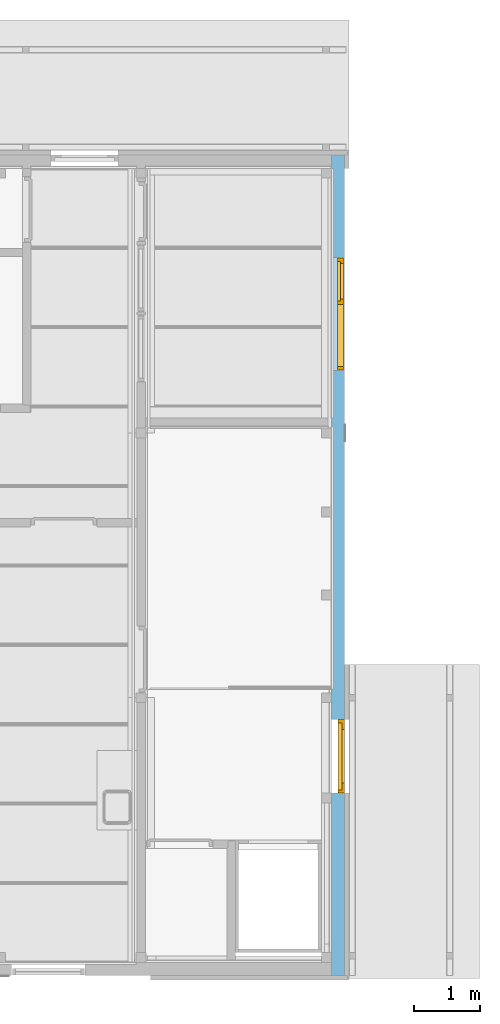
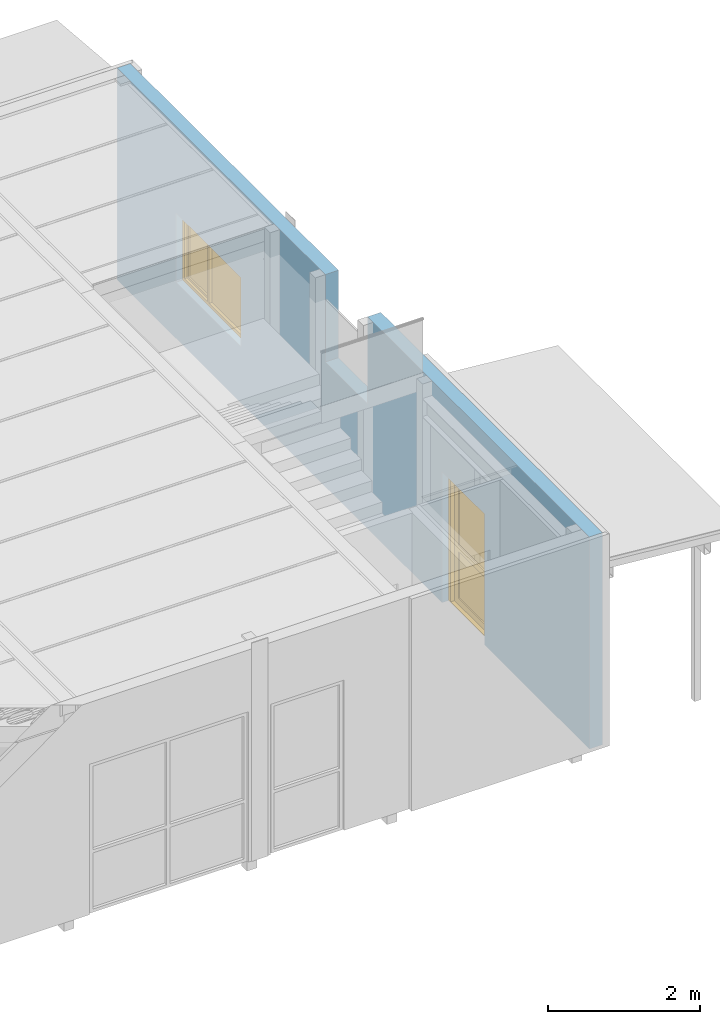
# One storey, part 30 of 45: 1 door, 1 window, 3 openings, plus 1 element that does not belong to this part.
"""IFC2X3 building model written with IfcOpenShell, lengths in millimetres."""

import ifcopenshell
import ifcopenshell.guid

model = None  # the IFC model being written
_history = None  # IfcOwnerHistory: only IFC2X3 demands one
_inside = {}  # id of a spatial element -> (the spatial element, [elements in it])
_under = {}  # id of a project, library or spatial element -> (it, [spatial elements below it])
_declared = {}  # id of a project -> (the project, [libraries it declares])
_typed = {}  # id of a type object -> (the type object, [elements of that type])
_made_of = {}  # id of a material, layer set ... -> (it, [elements and type objects made of it])


def new_model(schema):
    """Start an empty IFC model of exactly this schema.

    Asked for "IFC4X3", IfcOpenShell would pick the latest addendum, in which some entities
    have other attributes; the version numbers below select the first issue.
    IFC2X3 requires an IfcOwnerHistory on every rooted entity: one is made here for all.
    """
    global model, _history
    if schema == "IFC4X3":
        model = ifcopenshell.file(schema_version=(4, 3, 0, 0))
    else:
        model = ifcopenshell.file(schema=schema)
    _inside.clear()
    _under.clear()
    _declared.clear()
    _typed.clear()
    _made_of.clear()
    _history = None
    if model.schema == "IFC2X3":
        org = make("IfcOrganization", Name="unknown")
        user = make(
            "IfcPersonAndOrganization",
            ThePerson=make("IfcPerson", FamilyName="unknown"),
            TheOrganization=org,
        )
        app = make(
            "IfcApplication",
            ApplicationDeveloper=org,
            Version="unknown",
            ApplicationFullName="unknown",
            ApplicationIdentifier="unknown",
        )
        _history = make(
            "IfcOwnerHistory",
            OwningUser=user,
            OwningApplication=app,
            ChangeAction="ADDED",
            CreationDate=0,
        )
    return model


def make(cls, **values):
    """One entity of the class cls with the attributes given. An attribute that is None is left unset."""
    return model.create_entity(
        cls, **{name: value for name, value in values.items() if value is not None}
    )


def entity(cls, *values):
    """Any entity or typed value of the class cls, its attributes in the order of the schema. None: left unset."""
    e = model.create_entity(cls)
    for i, value in enumerate(values):
        if value is not None:
            e[i] = value
    return e


def rooted(cls, **values):
    """An entity with a GlobalId (a new one), such as an element, a storey or a relation."""
    return make(cls, GlobalId=ifcopenshell.guid.new(), OwnerHistory=_history, **values)


def si_unit(unit_type, name, prefix=None):
    """IfcSIUnit, for example si_unit("LENGTHUNIT", "METRE", prefix="MILLI")."""
    return make("IfcSIUnit", UnitType=unit_type, Prefix=prefix, Name=name)


def converted_unit(unit_type, name, factor, base, dimensions=None, offset=None):
    """IfcConversionBasedUnit, such as the inch: factor (a typed value) times the base unit."""
    return make(
        "IfcConversionBasedUnit"
        if offset is None
        else "IfcConversionBasedUnitWithOffset",
        ConversionOffset=offset,
        Dimensions=None
        if dimensions is None
        else entity("IfcDimensionalExponents", *dimensions),
        UnitType=unit_type,
        Name=name,
        ConversionFactor=make(
            "IfcMeasureWithUnit", ValueComponent=factor, UnitComponent=base
        ),
    )


def assignment(units):
    """IfcUnitAssignment: the units of a project."""
    return None if units is None else make("IfcUnitAssignment", Units=units)


def point(xyz):
    """IfcCartesianPoint."""
    return None if xyz is None else make("IfcCartesianPoint", Coordinates=xyz)


def direction(xyz):
    """IfcDirection."""
    return None if xyz is None else make("IfcDirection", DirectionRatios=xyz)


def frame(location, z_axis=None, x_axis=None):
    """IfcAxis2Placement3D, a coordinate frame: its origin and axes. An axis left out is left unset."""
    return make(
        "IfcAxis2Placement3D",
        Location=point(location),
        Axis=direction(z_axis),
        RefDirection=direction(x_axis),
    )


def frame_2d(location, x_axis=None):
    """IfcAxis2Placement2D, a coordinate frame in the plane: its origin and x axis."""
    return make(
        "IfcAxis2Placement2D", Location=point(location), RefDirection=direction(x_axis)
    )


def origin():
    """The frame at (0, 0, 0) with its axes left unset."""
    return frame((0.0, 0.0, 0.0))


def origin_with_axes():
    """The frame at (0, 0, 0) with the z axis (0, 0, 1) and the x axis (1, 0, 0) written out."""
    return frame((0.0, 0.0, 0.0), z_axis=(0.0, 0.0, 1.0), x_axis=(1.0, 0.0, 0.0))


def place(relative_to, where):
    """IfcLocalPlacement: puts the frame where relative to a parent placement (None: the world)."""
    return make(
        "IfcLocalPlacement", PlacementRelTo=relative_to, RelativePlacement=where
    )


def context(
    kind, dimensions, precision=None, world=None, true_north=None, identifier=None
):
    """IfcGeometricRepresentationContext, for example the 3D "Model" context."""
    return make(
        "IfcGeometricRepresentationContext",
        ContextIdentifier=identifier,
        ContextType=kind,
        CoordinateSpaceDimension=dimensions,
        Precision=precision,
        WorldCoordinateSystem=world,
        TrueNorth=true_north,
    )


def subcontext(parent, identifier, kind, view, scale=None):
    """IfcGeometricRepresentationSubContext, for example "Body" below "Model"."""
    return make(
        "IfcGeometricRepresentationSubContext",
        ContextIdentifier=identifier,
        ContextType=kind,
        ParentContext=parent,
        TargetScale=scale,
        TargetView=view,
    )


def project(units=None, contexts=None):
    """IfcProject with its units and contexts."""
    return rooted(
        "IfcProject",
        Name="project",
        RepresentationContexts=contexts,
        UnitsInContext=assignment(units),
    )


def spatial(cls, under=None, at=None, **own):
    """A site, building, storey or space (cls), placed at a placement, below another one or the project."""
    s = rooted(cls, ObjectPlacement=at, **own)
    if under is not None:
        _under.setdefault(under.id(), (under, []))[1].append(s)
    return s


def profile(cls, at=None, kind="AREA", **sizes):
    """A parametric profile (cls). Its sizes go by their IFC names, for example OverallWidth=200.0."""
    return make(cls, ProfileType=kind, Position=at, **sizes)


def rectangle(**sizes):
    """IfcRectangleProfileDef."""
    return profile("IfcRectangleProfileDef", **sizes)


def extrude(swept, where, along, depth):
    """IfcExtrudedAreaSolid: the profile swept, set in the frame where, extruded along a direction by depth."""
    return make(
        "IfcExtrudedAreaSolid",
        SweptArea=swept,
        Position=where,
        ExtrudedDirection=direction(along),
        Depth=depth,
    )


def faces_of(points, faces, orient=None, outer=None):
    """IfcFace entities. A face is a list of loops; a loop is a list of indices into points, from 0.

    orient and outer hold one flag for each loop. By default every Orientation is true, the
    first loop of a face is its IfcFaceOuterBound and the others are IfcFaceBound.
    """
    made = []
    for i, loops in enumerate(faces):
        bounds = []
        for j, loop in enumerate(loops):
            is_outer = j == 0 if outer is None else outer[i][j]
            bounds.append(
                make(
                    "IfcFaceOuterBound" if is_outer else "IfcFaceBound",
                    Bound=make("IfcPolyLoop", Polygon=[points[k] for k in loop]),
                    Orientation=True if orient is None else orient[i][j],
                )
            )
        made.append(make("IfcFace", Bounds=bounds))
    return made


def faceted_brep(points, faces, orient=None, outer=None, voids=None):
    """IfcFacetedBrep: a solid bounded by flat faces; with voids (closed shells), ...WithVoids."""
    shared = [point(p) for p in points]
    hull = make("IfcClosedShell", CfsFaces=faces_of(shared, faces, orient, outer))
    if voids is None:
        return make("IfcFacetedBrep", Outer=hull)
    return make(
        "IfcFacetedBrepWithVoids",
        Outer=hull,
        Voids=[
            make(cls, CfsFaces=faces_of(shared, fs, o, b)) for cls, fs, o, b in voids
        ],
    )


def shape(context_of_items, identifier, shape_type, items):
    """IfcShapeRepresentation: the items that make up one representation, for example the "Body"."""
    return make(
        "IfcShapeRepresentation",
        ContextOfItems=context_of_items,
        RepresentationIdentifier=identifier,
        RepresentationType=shape_type,
        Items=items,
    )


def material(Name=None, Category=None):
    """IfcMaterial."""
    return make("IfcMaterial", Name=Name, Category=Category)


def layer(
    of_material, thickness, ventilated=None, Name=None, Category=None, Priority=None
):
    """IfcMaterialLayer: one layer of a wall or slab, of a material (None: an air gap)."""
    return make(
        "IfcMaterialLayer",
        Material=of_material,
        LayerThickness=thickness,
        IsVentilated=ventilated,
        Name=Name,
        Category=Category,
        Priority=Priority,
    )


def layer_set(layers, Name=None):
    """IfcMaterialLayerSet."""
    return make("IfcMaterialLayerSet", MaterialLayers=layers, LayerSetName=Name)


def layer_usage(for_layer_set, set_direction, sense, offset, extent=None):
    """IfcMaterialLayerSetUsage: how a layer set lies in its element."""
    return make(
        "IfcMaterialLayerSetUsage",
        ForLayerSet=for_layer_set,
        LayerSetDirection=set_direction,
        DirectionSense=sense,
        OffsetFromReferenceLine=offset,
        ReferenceExtent=extent,
    )


def made_of(thing, what):
    """Note that an element or type object is made of a material, layer set ...; save() writes the relation."""
    if what is not None:
        _made_of.setdefault(what.id(), (what, []))[1].append(thing)
    return thing


def type_object(cls, material=None, **own):
    """A type object (cls), such as IfcWallType, which elements share."""
    return made_of(rooted(cls, **own), material)


def element(
    cls,
    number,
    at=None,
    inside=None,
    cuts=None,
    type_object=None,
    material=None,
    context=None,
    identifier="Body",
    shape_type=None,
    held_by="IfcProductDefinitionShape",
    body=None,
    shapes=None,
    **own,
):
    """One element of the class cls, such as IfcWall. Its Tag is "e" and its number.

    at: its placement. inside: the storey or other place that contains it. cuts: it is an
    opening in that element (IfcRelVoidsElement). A single representation is given by context,
    identifier, shape_type and body (its items); several are given by shapes. held_by: the class
    of the entity that holds the representations. save() writes the other relations.
    """
    e = rooted(cls, Tag="e%d" % number, ObjectPlacement=at, **own)
    if body is not None:
        shapes = [shape(context, identifier, shape_type, body)]
    if shapes is not None:
        e.Representation = make(held_by, Representations=shapes)
    if inside is not None:
        _inside.setdefault(inside.id(), (inside, []))[1].append(e)
    if cuts is not None:
        rooted(
            "IfcRelVoidsElement", RelatingBuildingElement=cuts, RelatedOpeningElement=e
        )
    if type_object is not None:
        _typed.setdefault(type_object.id(), (type_object, []))[1].append(e)
    return made_of(e, material)


def fill(opening, filler):
    """IfcRelFillsElement: the door or window that sits in an opening."""
    return rooted(
        "IfcRelFillsElement",
        RelatingOpeningElement=opening,
        RelatedBuildingElement=filler,
    )


def aggregate(whole, parts):
    """IfcRelAggregates: a whole, such as a stair, and the parts it consists of."""
    return rooted("IfcRelAggregates", RelatingObject=whole, RelatedObjects=parts)


def save(model, path):
    """Write the relations noted so far, then the file.

    IfcRelAggregates (storeys below a building ...), IfcRelContainedInSpatialStructure (elements
    in a storey), IfcRelDefinesByType, IfcRelAssociatesMaterial and IfcRelDeclares: one each for
    every whole, place, type object, material and project.
    """
    for whole, parts in _under.values():
        aggregate(whole, parts)
    for where, things in _inside.values():
        rooted(
            "IfcRelContainedInSpatialStructure",
            RelatedElements=things,
            RelatingStructure=where,
        )
    for kind, things in _typed.values():
        rooted("IfcRelDefinesByType", RelatedObjects=things, RelatingType=kind)
    for what, things in _made_of.values():
        rooted("IfcRelAssociatesMaterial", RelatedObjects=things, RelatingMaterial=what)
    for by, libraries in _declared.values():
        rooted("IfcRelDeclares", RelatingContext=by, RelatedDefinitions=libraries)
    model.write(path)


model = new_model("IFC2X3")

# Units and contexts
model_context = context("Model", 3, precision=1e-05, world=origin())
plan_context = context("Plan", 3, precision=1e-05, world=origin())
body_context = subcontext(model_context, "Body", "Model", "MODEL_VIEW")
ifc_project = project(units=[si_unit("LENGTHUNIT", "METRE", prefix="MILLI"), converted_unit("PLANEANGLEUNIT", "DEGREE", entity("IfcPlaneAngleMeasure", 0.0174532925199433), si_unit("PLANEANGLEUNIT", "RADIAN"), dimensions=[0, 0, 0, 0, 0, 0, 0]), si_unit("AREAUNIT", "SQUARE_METRE"), si_unit("VOLUMEUNIT", "CUBIC_METRE")], contexts=[model_context, plan_context])

# Building, storey
building_placement = place(None, origin())
building = spatial("IfcBuilding", under=ifc_project, at=building_placement, Name="HEKF Administrasjonbygg", CompositionType="ELEMENT")
storey_placement = place(building_placement, frame((0.0, 0.0, 6500.0), z_axis=(0.0, 0.0, 1.0), x_axis=(1.0, 0.0, 0.0)))
storey = spatial("IfcBuildingStorey", under=building, at=storey_placement, Name="Plan 1", CompositionType="ELEMENT", Elevation=6500.0)

# Wall, openings, door, window
ifc_material_1 = material(Name="Paroc 200")
ifc_layer = layer(ifc_material_1, 200.0)
ifc_layer_set = layer_set([ifc_layer])
ifc_layer_usage = layer_usage(ifc_layer_set, "AXIS2", "POSITIVE", 0.0)
wall_placement = place(storey_placement, frame((30000.0, 200.0, 0.0), z_axis=(0.0, 0.0, 1.0), x_axis=(0.0, -1.0, 0.0)))
wall = element("IfcWallStandardCase", 1, at=wall_placement, inside=storey, material=ifc_layer_usage, context=body_context, shape_type="SweptSolid", body=[
    extrude(rectangle(XDim=12400.0, YDim=200.0, at=frame_2d((6200.000000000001, 100.0), x_axis=(1.0, 0.0))), origin_with_axes(), (0.0, 0.0, 1.0), 3400.0),
])
opening_1_placement = place(wall_placement, frame((5466.053432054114, 0.0, 2000.0), z_axis=(0.0, 1.0, 0.0), x_axis=(0.0, 0.0, 1.0)))
element("IfcOpeningElement", 2, at=opening_1_placement, cuts=wall, Name="V013", ObjectType="Opening", context=body_context, shape_type="SweptSolid", body=[
    extrude(rectangle(XDim=2410.0, YDim=1110.0, at=frame_2d((1205.0, 555.0), x_axis=(1.0, 0.0))), origin_with_axes(), (0.0, 0.0, 1.0), 200.0),
])
opening_2_placement = place(wall_placement, frame((8531.624074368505, 0.0, 0.0), z_axis=(0.0, 1.0, 0.0), x_axis=(0.0, 0.0, 1.0)))
opening_2 = element("IfcOpeningElement", 3, at=opening_2_placement, cuts=wall, Name="D003", ObjectType="Opening", context=body_context, shape_type="SweptSolid", body=[
    extrude(rectangle(XDim=2100.0, YDim=1110.0, at=frame_2d((1050.0, 555.0), x_axis=(1.0, 0.0))), origin_with_axes(), (0.0, 0.0, 1.0), 200.0),
])
opening_3_placement = place(wall_placement, frame((1545.561780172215, 0.0, 900.0), z_axis=(0.0, 1.0, 0.0), x_axis=(0.0, 0.0, 1.0)))
opening_3 = element("IfcOpeningElement", 4, at=opening_3_placement, cuts=wall, Name="V005", ObjectType="Opening", context=body_context, shape_type="SweptSolid", body=[
    extrude(rectangle(XDim=1110.0, YDim=1710.0, at=frame_2d((555.0, 855.0), x_axis=(1.0, 0.0))), origin_with_axes(), (0.0, 0.0, 1.0), 200.0),
])
ifc_material_2 = material()
door_style = type_object("IfcDoorStyle", Name="D003", ConstructionType="NOTDEFINED", OperationType="USERDEFINED", ParameterTakesPrecedence=False, Sizeable=False)
door_placement = place(opening_2_placement, frame((0.0, 0.0, 0.0), z_axis=(1.0, 0.0, 0.0), x_axis=(0.0, 1.0, 0.0)))
door = element("IfcDoor", 5, at=door_placement, inside=storey, type_object=door_style, material=ifc_material_2, Name="D003", OverallHeight=2100.0, OverallWidth=1110.0, context=body_context, shape_type="Brep", body=[
    faceted_brep([(1110.0, 200.0000000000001, 2100.0), (1060.0, 200.0000000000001, 2100.0), (1060.0, 200.0, -3.061616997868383e-15), (1110.0, 200.0, -3.061616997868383e-15), (1110.0, 100.0, 3.061616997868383e-15), (1060.0, 100.0, 3.061616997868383e-15), (1060.0, 100.0000000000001, 2100.0), (1110.0, 100.0000000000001, 2100.0), (1110.0, 200.0, -3.061616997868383e-15), (1110.0, 100.0, 3.061616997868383e-15), (1110.0, 100.0000000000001, 2100.0), (1110.0, 200.0000000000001, 2100.0), (1060.0, 200.0, -3.061616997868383e-15), (1060.0, 100.0, 3.061616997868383e-15), (1110.0, 100.0, 3.061616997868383e-15), (1110.0, 200.0, -3.061616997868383e-15), (1060.0, 200.0000000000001, 2100.0), (1060.0, 100.0000000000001, 2100.0), (1060.0, 100.0, 3.061616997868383e-15), (1060.0, 200.0, -3.061616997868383e-15), (1110.0, 200.0000000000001, 2100.0), (1110.0, 100.0000000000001, 2100.0), (1060.0, 100.0000000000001, 2100.0), (1060.0, 200.0000000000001, 2100.0)], [[[0, 1, 2, 3]], [[4, 5, 6, 7]], [[8, 9, 10, 11]], [[12, 13, 14, 15]], [[16, 17, 18, 19]], [[20, 21, 22, 23]]], orient=[[False], [False], [False], [False], [False], [False]]),
    faceted_brep([(50.0, 200.0000000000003, 2100.0), (0.0, 200.0000000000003, 2100.0), (0.0, 200.0000000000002, -3.061616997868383e-15), (50.0, 200.0000000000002, -3.061616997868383e-15), (50.0, 100.0000000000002, 3.061616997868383e-15), (0.0, 100.0000000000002, 3.061616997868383e-15), (0.0, 100.0000000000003, 2100.0), (50.0, 100.0000000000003, 2100.0), (50.0, 200.0000000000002, -3.061616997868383e-15), (50.0, 100.0000000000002, 3.061616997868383e-15), (50.0, 100.0000000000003, 2100.0), (50.0, 200.0000000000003, 2100.0), (0.0, 200.0000000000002, -3.061616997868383e-15), (0.0, 100.0000000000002, 3.061616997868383e-15), (50.0, 100.0000000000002, 3.061616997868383e-15), (50.0, 200.0000000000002, -3.061616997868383e-15), (0.0, 200.0000000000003, 2100.0), (0.0, 100.0000000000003, 2100.0), (0.0, 100.0000000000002, 3.061616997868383e-15), (0.0, 200.0000000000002, -3.061616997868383e-15), (50.0, 200.0000000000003, 2100.0), (50.0, 100.0000000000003, 2100.0), (0.0, 100.0000000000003, 2100.0), (0.0, 200.0000000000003, 2100.0)], [[[0, 1, 2, 3]], [[4, 5, 6, 7]], [[8, 9, 10, 11]], [[12, 13, 14, 15]], [[16, 17, 18, 19]], [[20, 21, 22, 23]]], orient=[[False], [False], [False], [False], [False], [False]]),
    faceted_brep([(1060.0, 200.0, 9.999999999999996), (50.0, 200.0000000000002, 9.999999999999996), (50.0, 200.0000000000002, -3.061616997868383e-15), (1060.0, 200.0, -3.061616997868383e-15), (1060.0, 100.0, 3.061616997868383e-15), (50.0, 100.0000000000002, 3.061616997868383e-15), (50.0, 100.0000000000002, 10.0), (1060.0, 100.0, 10.0), (1060.0, 200.0, -3.061616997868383e-15), (1060.0, 100.0, 3.061616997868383e-15), (1060.0, 100.0, 10.0), (1060.0, 200.0, 9.999999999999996), (50.0, 200.0000000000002, -3.061616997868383e-15), (50.0, 100.0000000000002, 3.061616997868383e-15), (1060.0, 100.0, 3.061616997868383e-15), (1060.0, 200.0, -3.061616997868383e-15), (50.0, 200.0000000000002, 9.999999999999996), (50.0, 100.0000000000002, 10.0), (50.0, 100.0000000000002, 3.061616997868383e-15), (50.0, 200.0000000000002, -3.061616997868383e-15), (1060.0, 200.0, 9.999999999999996), (1060.0, 100.0, 10.0), (50.0, 100.0000000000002, 10.0), (50.0, 200.0000000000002, 9.999999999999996)], [[[0, 1, 2, 3]], [[4, 5, 6, 7]], [[8, 9, 10, 11]], [[12, 13, 14, 15]], [[16, 17, 18, 19]], [[20, 21, 22, 23]]], orient=[[False], [False], [False], [False], [False], [False]]),
    faceted_brep([(1060.0, 200.0000000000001, 2100.000000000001), (50.0, 200.0000000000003, 2100.000000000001), (50.0, 200.0000000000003, 2050.000000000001), (1060.0, 200.0000000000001, 2050.000000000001), (1060.0, 100.0000000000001, 2050.000000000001), (50.0, 100.0000000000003, 2050.000000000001), (50.0, 100.0000000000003, 2100.000000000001), (1060.0, 100.0000000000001, 2100.000000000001), (1060.0, 200.0000000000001, 2050.000000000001), (1060.0, 100.0000000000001, 2050.000000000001), (1060.0, 100.0000000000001, 2100.000000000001), (1060.0, 200.0000000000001, 2100.000000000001), (50.0, 200.0000000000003, 2050.000000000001), (50.0, 100.0000000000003, 2050.000000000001), (1060.0, 100.0000000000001, 2050.000000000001), (1060.0, 200.0000000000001, 2050.000000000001), (50.0, 200.0000000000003, 2100.000000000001), (50.0, 100.0000000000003, 2100.000000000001), (50.0, 100.0000000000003, 2050.000000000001), (50.0, 200.0000000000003, 2050.000000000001), (1060.0, 200.0000000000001, 2100.000000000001), (1060.0, 100.0000000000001, 2100.000000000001), (50.0, 100.0000000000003, 2100.000000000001), (50.0, 200.0000000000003, 2100.000000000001)], [[[0, 1, 2, 3]], [[4, 5, 6, 7]], [[8, 9, 10, 11]], [[12, 13, 14, 15]], [[16, 17, 18, 19]], [[20, 21, 22, 23]]], orient=[[False], [False], [False], [False], [False], [False]]),
    faceted_brep([(1060.0, 200.0000000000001, 2050.000000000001), (960.0, 200.0000000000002, 2050.000000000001), (960.0, 200.0, 9.999999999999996), (1060.0, 200.0, 9.999999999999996), (1060.0, 160.0, 9.999999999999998), (960.0, 160.0, 9.999999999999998), (960.0, 160.0000000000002, 2050.000000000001), (1060.0, 160.0000000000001, 2050.000000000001), (1060.0, 200.0, 9.999999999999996), (1060.0, 160.0, 9.999999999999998), (1060.0, 160.0000000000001, 2050.000000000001), (1060.0, 200.0000000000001, 2050.000000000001), (960.0, 200.0, 9.999999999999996), (960.0, 160.0, 9.999999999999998), (1060.0, 160.0, 9.999999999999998), (1060.0, 200.0, 9.999999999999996), (960.0, 200.0000000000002, 2050.000000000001), (960.0, 160.0000000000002, 2050.000000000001), (960.0, 160.0, 9.999999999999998), (960.0, 200.0, 9.999999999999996), (1060.0, 200.0000000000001, 2050.000000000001), (1060.0, 160.0000000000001, 2050.000000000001), (960.0, 160.0000000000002, 2050.000000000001), (960.0, 200.0000000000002, 2050.000000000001)], [[[0, 1, 2, 3]], [[4, 5, 6, 7]], [[8, 9, 10, 11]], [[12, 13, 14, 15]], [[16, 17, 18, 19]], [[20, 21, 22, 23]]], orient=[[False], [False], [False], [False], [False], [False]]),
    faceted_brep([(150.0, 200.0000000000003, 2050.000000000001), (50.0, 200.0000000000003, 2050.000000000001), (50.0, 200.0000000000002, 9.999999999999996), (150.0, 200.0000000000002, 9.999999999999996), (150.0, 160.0000000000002, 9.999999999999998), (50.0, 160.0000000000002, 9.999999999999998), (50.0, 160.0000000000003, 2050.000000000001), (150.0, 160.0000000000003, 2050.000000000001), (150.0, 200.0000000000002, 9.999999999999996), (150.0, 160.0000000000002, 9.999999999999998), (150.0, 160.0000000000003, 2050.000000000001), (150.0, 200.0000000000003, 2050.000000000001), (50.0, 200.0000000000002, 9.999999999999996), (50.0, 160.0000000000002, 9.999999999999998), (150.0, 160.0000000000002, 9.999999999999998), (150.0, 200.0000000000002, 9.999999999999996), (50.0, 200.0000000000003, 2050.000000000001), (50.0, 160.0000000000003, 2050.000000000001), (50.0, 160.0000000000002, 9.999999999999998), (50.0, 200.0000000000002, 9.999999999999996), (150.0, 200.0000000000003, 2050.000000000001), (150.0, 160.0000000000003, 2050.000000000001), (50.0, 160.0000000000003, 2050.000000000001), (50.0, 200.0000000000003, 2050.000000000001)], [[[0, 1, 2, 3]], [[4, 5, 6, 7]], [[8, 9, 10, 11]], [[12, 13, 14, 15]], [[16, 17, 18, 19]], [[20, 21, 22, 23]]], orient=[[False], [False], [False], [False], [False], [False]]),
    faceted_brep([(960.0, 200.0, 110.0), (150.0, 200.0000000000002, 110.0), (150.0, 200.0000000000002, 9.999999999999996), (960.0, 200.0, 9.999999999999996), (960.0, 160.0, 9.999999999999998), (150.0, 160.0000000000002, 9.999999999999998), (150.0, 160.0000000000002, 110.0), (960.0, 160.0, 110.0), (960.0, 200.0, 9.999999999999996), (960.0, 160.0, 9.999999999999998), (960.0, 160.0, 110.0), (960.0, 200.0, 110.0), (150.0, 200.0000000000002, 9.999999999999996), (150.0, 160.0000000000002, 9.999999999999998), (960.0, 160.0, 9.999999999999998), (960.0, 200.0, 9.999999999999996), (150.0, 200.0000000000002, 110.0), (150.0, 160.0000000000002, 110.0), (150.0, 160.0000000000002, 9.999999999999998), (150.0, 200.0000000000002, 9.999999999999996), (960.0, 200.0, 110.0), (960.0, 160.0, 110.0), (150.0, 160.0000000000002, 110.0), (150.0, 200.0000000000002, 110.0)], [[[0, 1, 2, 3]], [[4, 5, 6, 7]], [[8, 9, 10, 11]], [[12, 13, 14, 15]], [[16, 17, 18, 19]], [[20, 21, 22, 23]]], orient=[[False], [False], [False], [False], [False], [False]]),
    faceted_brep([(960.0, 200.0000000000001, 2050.000000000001), (150.0, 200.0000000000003, 2050.000000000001), (150.0, 200.0000000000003, 1950.000000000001), (960.0, 200.0000000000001, 1950.000000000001), (960.0, 160.0000000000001, 1950.000000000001), (150.0, 160.0000000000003, 1950.000000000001), (150.0, 160.0000000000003, 2050.000000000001), (960.0, 160.0000000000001, 2050.000000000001), (960.0, 200.0000000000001, 1950.000000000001), (960.0, 160.0000000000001, 1950.000000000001), (960.0, 160.0000000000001, 2050.000000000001), (960.0, 200.0000000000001, 2050.000000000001), (150.0, 200.0000000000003, 1950.000000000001), (150.0, 160.0000000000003, 1950.000000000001), (960.0, 160.0000000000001, 1950.000000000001), (960.0, 200.0000000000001, 1950.000000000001), (150.0, 200.0000000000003, 2050.000000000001), (150.0, 160.0000000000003, 2050.000000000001), (150.0, 160.0000000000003, 1950.000000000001), (150.0, 200.0000000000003, 1950.000000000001), (960.0, 200.0000000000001, 2050.000000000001), (960.0, 160.0000000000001, 2050.000000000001), (150.0, 160.0000000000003, 2050.000000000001), (150.0, 200.0000000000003, 2050.000000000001)], [[[0, 1, 2, 3]], [[4, 5, 6, 7]], [[8, 9, 10, 11]], [[12, 13, 14, 15]], [[16, 17, 18, 19]], [[20, 21, 22, 23]]], orient=[[False], [False], [False], [False], [False], [False]]),
    faceted_brep([(960.0, 200.0000000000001, 960.0), (150.0, 200.0000000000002, 960.0), (150.0, 200.0000000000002, 860.0), (960.0, 200.0000000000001, 860.0), (960.0, 160.0000000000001, 860.0), (150.0, 160.0000000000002, 860.0), (150.0, 160.0000000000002, 960.0), (960.0, 160.0000000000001, 960.0), (960.0, 200.0000000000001, 860.0), (960.0, 160.0000000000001, 860.0), (960.0, 160.0000000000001, 960.0), (960.0, 200.0000000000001, 960.0), (150.0, 200.0000000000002, 860.0), (150.0, 160.0000000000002, 860.0), (960.0, 160.0000000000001, 860.0), (960.0, 200.0000000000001, 860.0), (150.0, 200.0000000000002, 960.0), (150.0, 160.0000000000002, 960.0), (150.0, 160.0000000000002, 860.0), (150.0, 200.0000000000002, 860.0), (960.0, 200.0000000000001, 960.0), (960.0, 160.0000000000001, 960.0), (150.0, 160.0000000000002, 960.0), (150.0, 200.0000000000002, 960.0)], [[[0, 1, 2, 3]], [[4, 5, 6, 7]], [[8, 9, 10, 11]], [[12, 13, 14, 15]], [[16, 17, 18, 19]], [[20, 21, 22, 23]]], orient=[[False], [False], [False], [False], [False], [False]]),
    faceted_brep([(960.0, 180.0000000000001, 110.0), (960.0, 180.0000000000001, 860.0), (150.0, 180.0000000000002, 860.0), (150.0, 180.0000000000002, 110.0), (960.0, 179.0000000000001, 110.0), (150.0, 179.0000000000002, 110.0), (150.0, 179.0000000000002, 860.0), (960.0, 179.0000000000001, 860.0), (960.0, 180.0000000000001, 110.0), (960.0, 179.0000000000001, 110.0), (960.0, 179.0000000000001, 860.0), (960.0, 180.0000000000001, 860.0), (960.0, 180.0000000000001, 860.0), (960.0, 179.0000000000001, 860.0), (150.0, 179.0000000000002, 860.0), (150.0, 180.0000000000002, 860.0), (150.0, 180.0000000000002, 860.0), (150.0, 179.0000000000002, 860.0), (150.0, 179.0000000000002, 110.0), (150.0, 180.0000000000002, 110.0), (150.0, 180.0000000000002, 110.0), (150.0, 179.0000000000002, 110.0), (960.0, 179.0000000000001, 110.0), (960.0, 180.0000000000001, 110.0)], [[[0, 1, 2, 3]], [[4, 5, 6, 7]], [[8, 9, 10, 11]], [[12, 13, 14, 15]], [[16, 17, 18, 19]], [[20, 21, 22, 23]]], orient=[[False], [False], [False], [False], [False], [False]]),
    faceted_brep([(960.0, 180.0000000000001, 960.0), (960.0, 180.0000000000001, 1950.000000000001), (150.0, 180.0000000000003, 1950.000000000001), (150.0, 180.0000000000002, 960.0), (960.0, 179.0000000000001, 960.0), (150.0, 179.0000000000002, 960.0), (150.0, 179.0000000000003, 1950.000000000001), (960.0, 179.0000000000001, 1950.000000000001), (960.0, 180.0000000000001, 960.0), (960.0, 179.0000000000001, 960.0), (960.0, 179.0000000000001, 1950.000000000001), (960.0, 180.0000000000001, 1950.000000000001), (960.0, 180.0000000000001, 1950.000000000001), (960.0, 179.0000000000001, 1950.000000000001), (150.0, 179.0000000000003, 1950.000000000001), (150.0, 180.0000000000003, 1950.000000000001), (150.0, 180.0000000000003, 1950.000000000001), (150.0, 179.0000000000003, 1950.000000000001), (150.0, 179.0000000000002, 960.0), (150.0, 180.0000000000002, 960.0), (150.0, 180.0000000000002, 960.0), (150.0, 179.0000000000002, 960.0), (960.0, 179.0000000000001, 960.0), (960.0, 180.0000000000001, 960.0)], [[[0, 1, 2, 3]], [[4, 5, 6, 7]], [[8, 9, 10, 11]], [[12, 13, 14, 15]], [[16, 17, 18, 19]], [[20, 21, 22, 23]]], orient=[[False], [False], [False], [False], [False], [False]]),
])
fill(opening_2, door)
ifc_material_3 = material()
window_style = type_object("IfcWindowStyle", Name="V104", ConstructionType="NOTDEFINED", OperationType="USERDEFINED", ParameterTakesPrecedence=False, Sizeable=False)
window_placement = place(opening_3_placement, frame((0.0, 0.0, 0.0), z_axis=(1.0, 0.0, 0.0), x_axis=(0.0, 1.0, 0.0)))
window = element("IfcWindow", 6, at=window_placement, inside=storey, type_object=window_style, material=ifc_material_3, Name="V104", OverallHeight=1110.0, OverallWidth=1710.0, context=body_context, shape_type="Brep", body=[
    faceted_brep([(1700.0, 93.99999999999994, 1100.0), (1700.0, 94.00000000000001, 9.999999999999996), (1650.0, 94.00000000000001, 9.999999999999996), (1650.0, 93.99999999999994, 1100.0), (1700.0, 186.0, 10.0), (1700.0, 185.9999999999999, 1100.0), (1650.0, 185.9999999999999, 1100.0), (1650.0, 186.0, 10.0), (1700.0, 94.00000000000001, 9.999999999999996), (1700.0, 93.99999999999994, 1100.0), (1700.0, 185.9999999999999, 1100.0), (1700.0, 186.0, 10.0), (1650.0, 94.00000000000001, 9.999999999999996), (1700.0, 94.00000000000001, 9.999999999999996), (1700.0, 186.0, 10.0), (1650.0, 186.0, 10.0), (1650.0, 93.99999999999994, 1100.0), (1650.0, 94.00000000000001, 9.999999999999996), (1650.0, 186.0, 10.0), (1650.0, 185.9999999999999, 1100.0), (1700.0, 93.99999999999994, 1100.0), (1650.0, 93.99999999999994, 1100.0), (1650.0, 185.9999999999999, 1100.0), (1700.0, 185.9999999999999, 1100.0)], [[[0, 1, 2, 3]], [[4, 5, 6, 7]], [[8, 9, 10, 11]], [[12, 13, 14, 15]], [[16, 17, 18, 19]], [[20, 21, 22, 23]]], orient=[[False], [False], [False], [False], [False], [False]]),
    faceted_brep([(60.0, 94.00000000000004, 1100.0), (60.0, 94.00000000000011, 9.999999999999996), (10.0, 94.00000000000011, 9.999999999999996), (10.0, 94.00000000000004, 1100.0), (60.0, 186.0000000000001, 10.0), (60.0, 186.0, 1100.0), (10.0, 186.0, 1100.0), (10.0, 186.0000000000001, 10.0), (60.0, 94.00000000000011, 9.999999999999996), (60.0, 94.00000000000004, 1100.0), (60.0, 186.0, 1100.0), (60.0, 186.0000000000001, 10.0), (10.0, 94.00000000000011, 9.999999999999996), (60.0, 94.00000000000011, 9.999999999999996), (60.0, 186.0000000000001, 10.0), (10.0, 186.0000000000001, 10.0), (10.0, 94.00000000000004, 1100.0), (10.0, 94.00000000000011, 9.999999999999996), (10.0, 186.0000000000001, 10.0), (10.0, 186.0, 1100.0), (60.0, 94.00000000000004, 1100.0), (10.0, 94.00000000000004, 1100.0), (10.0, 186.0, 1100.0), (60.0, 186.0, 1100.0)], [[[0, 1, 2, 3]], [[4, 5, 6, 7]], [[8, 9, 10, 11]], [[12, 13, 14, 15]], [[16, 17, 18, 19]], [[20, 21, 22, 23]]], orient=[[False], [False], [False], [False], [False], [False]]),
    faceted_brep([(1650.0, 94.00000000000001, 60.0), (1650.0, 94.00000000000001, 9.999999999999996), (60.00000000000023, 94.00000000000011, 9.999999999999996), (60.00000000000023, 94.00000000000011, 60.0), (1650.0, 186.0, 10.0), (1650.0, 186.0, 60.0), (60.00000000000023, 186.0000000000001, 60.0), (60.00000000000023, 186.0000000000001, 10.0), (1650.0, 94.00000000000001, 9.999999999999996), (1650.0, 94.00000000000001, 60.0), (1650.0, 186.0, 60.0), (1650.0, 186.0, 10.0), (60.00000000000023, 94.00000000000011, 9.999999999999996), (1650.0, 94.00000000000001, 9.999999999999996), (1650.0, 186.0, 10.0), (60.00000000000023, 186.0000000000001, 10.0), (60.00000000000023, 94.00000000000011, 60.0), (60.00000000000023, 94.00000000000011, 9.999999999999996), (60.00000000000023, 186.0000000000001, 10.0), (60.00000000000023, 186.0000000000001, 60.0), (1650.0, 94.00000000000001, 60.0), (60.00000000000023, 94.00000000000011, 60.0), (60.00000000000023, 186.0000000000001, 60.0), (1650.0, 186.0, 60.0)], [[[0, 1, 2, 3]], [[4, 5, 6, 7]], [[8, 9, 10, 11]], [[12, 13, 14, 15]], [[16, 17, 18, 19]], [[20, 21, 22, 23]]], orient=[[False], [False], [False], [False], [False], [False]]),
    faceted_brep([(1650.0, 93.99999999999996, 1100.0), (1650.0, 93.99999999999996, 1050.0), (60.00000000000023, 94.00000000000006, 1050.0), (60.00000000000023, 94.00000000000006, 1100.0), (1650.0, 185.9999999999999, 1050.0), (1650.0, 185.9999999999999, 1100.0), (60.00000000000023, 186.0000000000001, 1100.0), (60.00000000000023, 186.0000000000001, 1050.0), (1650.0, 93.99999999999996, 1050.0), (1650.0, 93.99999999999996, 1100.0), (1650.0, 185.9999999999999, 1100.0), (1650.0, 185.9999999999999, 1050.0), (60.00000000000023, 94.00000000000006, 1050.0), (1650.0, 93.99999999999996, 1050.0), (1650.0, 185.9999999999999, 1050.0), (60.00000000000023, 186.0000000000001, 1050.0), (60.00000000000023, 94.00000000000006, 1100.0), (60.00000000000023, 94.00000000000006, 1050.0), (60.00000000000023, 186.0000000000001, 1050.0), (60.00000000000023, 186.0000000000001, 1100.0), (1650.0, 93.99999999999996, 1100.0), (60.00000000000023, 94.00000000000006, 1100.0), (60.00000000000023, 186.0000000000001, 1100.0), (1650.0, 185.9999999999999, 1100.0)], [[[0, 1, 2, 3]], [[4, 5, 6, 7]], [[8, 9, 10, 11]], [[12, 13, 14, 15]], [[16, 17, 18, 19]], [[20, 21, 22, 23]]], orient=[[False], [False], [False], [False], [False], [False]]),
    faceted_brep([(710.0000000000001, 94.00000000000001, 1050.0), (710.0000000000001, 94.00000000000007, 60.00000000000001), (660.0, 94.00000000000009, 60.00000000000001), (660.0, 94.00000000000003, 1050.0), (710.0000000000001, 186.0000000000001, 60.00000000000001), (710.0000000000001, 186.0, 1050.0), (660.0, 186.0, 1050.0), (660.0, 186.0000000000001, 60.00000000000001), (710.0000000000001, 94.00000000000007, 60.00000000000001), (710.0000000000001, 94.00000000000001, 1050.0), (710.0000000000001, 186.0, 1050.0), (710.0000000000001, 186.0000000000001, 60.00000000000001), (660.0, 94.00000000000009, 60.00000000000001), (710.0000000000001, 94.00000000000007, 60.00000000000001), (710.0000000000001, 186.0000000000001, 60.00000000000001), (660.0, 186.0000000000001, 60.00000000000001), (660.0, 94.00000000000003, 1050.0), (660.0, 94.00000000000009, 60.00000000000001), (660.0, 186.0000000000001, 60.00000000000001), (660.0, 186.0, 1050.0), (710.0000000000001, 94.00000000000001, 1050.0), (660.0, 94.00000000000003, 1050.0), (660.0, 186.0, 1050.0), (710.0000000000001, 186.0, 1050.0)], [[[0, 1, 2, 3]], [[4, 5, 6, 7]], [[8, 9, 10, 11]], [[12, 13, 14, 15]], [[16, 17, 18, 19]], [[20, 21, 22, 23]]], orient=[[False], [False], [False], [False], [False], [False]]),
    faceted_brep([(1650.0, 140.0, 60.00000000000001), (710.0000000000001, 140.0000000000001, 60.00000000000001), (710.0000000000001, 140.0, 1050.0), (1650.0, 139.9999999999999, 1050.0), (1650.0, 141.0, 60.00000000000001), (1650.0, 140.9999999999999, 1050.0), (710.0000000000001, 141.0, 1050.0), (710.0000000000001, 141.0000000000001, 60.00000000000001), (1650.0, 140.0, 60.00000000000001), (1650.0, 141.0, 60.00000000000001), (710.0000000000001, 141.0000000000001, 60.00000000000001), (710.0000000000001, 140.0000000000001, 60.00000000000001), (710.0000000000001, 140.0000000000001, 60.00000000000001), (710.0000000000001, 141.0000000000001, 60.00000000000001), (710.0000000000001, 141.0, 1050.0), (710.0000000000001, 140.0, 1050.0), (710.0000000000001, 140.0, 1050.0), (710.0000000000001, 141.0, 1050.0), (1650.0, 140.9999999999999, 1050.0), (1650.0, 139.9999999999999, 1050.0), (1650.0, 139.9999999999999, 1050.0), (1650.0, 140.9999999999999, 1050.0), (1650.0, 141.0, 60.00000000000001), (1650.0, 140.0, 60.00000000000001)], [[[0, 1, 2, 3]], [[4, 5, 6, 7]], [[8, 9, 10, 11]], [[12, 13, 14, 15]], [[16, 17, 18, 19]], [[20, 21, 22, 23]]], orient=[[False], [False], [False], [False], [False], [False]]),
    faceted_brep([(680.0000000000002, 136.0, 1070.0), (680.0000000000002, 136.0000000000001, 40.0), (630.0000000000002, 136.0000000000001, 40.0), (630.0000000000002, 136.0, 1070.0), (680.0000000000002, 186.0000000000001, 40.0), (680.0000000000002, 186.0, 1070.0), (630.0000000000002, 186.0, 1070.0), (630.0000000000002, 186.0000000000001, 40.0), (680.0000000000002, 136.0000000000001, 40.0), (680.0000000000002, 136.0, 1070.0), (680.0000000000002, 186.0, 1070.0), (680.0000000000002, 186.0000000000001, 40.0), (630.0000000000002, 136.0000000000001, 40.0), (680.0000000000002, 136.0000000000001, 40.0), (680.0000000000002, 186.0000000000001, 40.0), (630.0000000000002, 186.0000000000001, 40.0), (630.0000000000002, 136.0, 1070.0), (630.0000000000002, 136.0000000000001, 40.0), (630.0000000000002, 186.0000000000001, 40.0), (630.0000000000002, 186.0, 1070.0), (680.0000000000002, 136.0, 1070.0), (630.0000000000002, 136.0, 1070.0), (630.0000000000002, 186.0, 1070.0), (680.0000000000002, 186.0, 1070.0)], [[[0, 1, 2, 3]], [[4, 5, 6, 7]], [[8, 9, 10, 11]], [[12, 13, 14, 15]], [[16, 17, 18, 19]], [[20, 21, 22, 23]]], orient=[[False], [False], [False], [False], [False], [False]]),
    faceted_brep([(90.00000000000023, 136.0, 1070.0), (90.00000000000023, 136.0000000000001, 40.0), (40.00000000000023, 136.0000000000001, 40.0), (40.00000000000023, 136.0, 1070.0), (90.00000000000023, 186.0000000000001, 40.0), (90.00000000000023, 186.0, 1070.0), (40.00000000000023, 186.0, 1070.0), (40.00000000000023, 186.0000000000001, 40.0), (90.00000000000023, 136.0000000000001, 40.0), (90.00000000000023, 136.0, 1070.0), (90.00000000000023, 186.0, 1070.0), (90.00000000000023, 186.0000000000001, 40.0), (40.00000000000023, 136.0000000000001, 40.0), (90.00000000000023, 136.0000000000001, 40.0), (90.00000000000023, 186.0000000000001, 40.0), (40.00000000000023, 186.0000000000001, 40.0), (40.00000000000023, 136.0, 1070.0), (40.00000000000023, 136.0000000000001, 40.0), (40.00000000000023, 186.0000000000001, 40.0), (40.00000000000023, 186.0, 1070.0), (90.00000000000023, 136.0, 1070.0), (40.00000000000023, 136.0, 1070.0), (40.00000000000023, 186.0, 1070.0), (90.00000000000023, 186.0, 1070.0)], [[[0, 1, 2, 3]], [[4, 5, 6, 7]], [[8, 9, 10, 11]], [[12, 13, 14, 15]], [[16, 17, 18, 19]], [[20, 21, 22, 23]]], orient=[[False], [False], [False], [False], [False], [False]]),
    faceted_brep([(630.0000000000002, 136.0000000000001, 90.0), (630.0000000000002, 136.0000000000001, 40.0), (90.00000000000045, 136.0000000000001, 40.0), (90.00000000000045, 136.0000000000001, 90.0), (630.0000000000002, 186.0000000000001, 40.0), (630.0000000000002, 186.0000000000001, 90.0), (90.00000000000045, 186.0000000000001, 90.0), (90.00000000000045, 186.0000000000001, 40.0), (630.0000000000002, 136.0000000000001, 40.0), (630.0000000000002, 136.0000000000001, 90.0), (630.0000000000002, 186.0000000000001, 90.0), (630.0000000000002, 186.0000000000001, 40.0), (90.00000000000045, 136.0000000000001, 40.0), (630.0000000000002, 136.0000000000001, 40.0), (630.0000000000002, 186.0000000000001, 40.0), (90.00000000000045, 186.0000000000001, 40.0), (90.00000000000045, 136.0000000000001, 90.0), (90.00000000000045, 136.0000000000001, 40.0), (90.00000000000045, 186.0000000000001, 40.0), (90.00000000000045, 186.0000000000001, 90.0), (630.0000000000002, 136.0000000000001, 90.0), (90.00000000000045, 136.0000000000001, 90.0), (90.00000000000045, 186.0000000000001, 90.0), (630.0000000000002, 186.0000000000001, 90.0)], [[[0, 1, 2, 3]], [[4, 5, 6, 7]], [[8, 9, 10, 11]], [[12, 13, 14, 15]], [[16, 17, 18, 19]], [[20, 21, 22, 23]]], orient=[[False], [False], [False], [False], [False], [False]]),
    faceted_brep([(630.0000000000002, 136.0, 1070.0), (630.0000000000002, 136.0, 1020.0), (90.00000000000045, 136.0000000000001, 1020.0), (90.00000000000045, 136.0000000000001, 1070.0), (630.0000000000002, 186.0, 1020.0), (630.0000000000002, 186.0, 1070.0), (90.00000000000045, 186.0, 1070.0), (90.00000000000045, 186.0, 1020.0), (630.0000000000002, 136.0, 1020.0), (630.0000000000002, 136.0, 1070.0), (630.0000000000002, 186.0, 1070.0), (630.0000000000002, 186.0, 1020.0), (90.00000000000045, 136.0000000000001, 1020.0), (630.0000000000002, 136.0, 1020.0), (630.0000000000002, 186.0, 1020.0), (90.00000000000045, 186.0, 1020.0), (90.00000000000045, 136.0000000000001, 1070.0), (90.00000000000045, 136.0000000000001, 1020.0), (90.00000000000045, 186.0, 1020.0), (90.00000000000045, 186.0, 1070.0), (630.0000000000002, 136.0, 1070.0), (90.00000000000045, 136.0000000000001, 1070.0), (90.00000000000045, 186.0, 1070.0), (630.0000000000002, 186.0, 1070.0)], [[[0, 1, 2, 3]], [[4, 5, 6, 7]], [[8, 9, 10, 11]], [[12, 13, 14, 15]], [[16, 17, 18, 19]], [[20, 21, 22, 23]]], orient=[[False], [False], [False], [False], [False], [False]]),
    faceted_brep([(630.0000000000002, 161.0000000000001, 90.00000000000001), (90.00000000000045, 161.0000000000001, 90.00000000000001), (90.00000000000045, 161.0000000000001, 1020.0), (630.0000000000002, 161.0, 1020.0), (630.0000000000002, 162.0000000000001, 90.00000000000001), (630.0000000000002, 162.0, 1020.0), (90.00000000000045, 162.0000000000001, 1020.0), (90.00000000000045, 162.0000000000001, 90.00000000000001), (630.0000000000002, 161.0000000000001, 90.00000000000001), (630.0000000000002, 162.0000000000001, 90.00000000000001), (90.00000000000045, 162.0000000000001, 90.00000000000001), (90.00000000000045, 161.0000000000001, 90.00000000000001), (90.00000000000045, 161.0000000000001, 90.00000000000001), (90.00000000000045, 162.0000000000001, 90.00000000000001), (90.00000000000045, 162.0000000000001, 1020.0), (90.00000000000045, 161.0000000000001, 1020.0), (90.00000000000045, 161.0000000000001, 1020.0), (90.00000000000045, 162.0000000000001, 1020.0), (630.0000000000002, 162.0, 1020.0), (630.0000000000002, 161.0, 1020.0), (630.0000000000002, 161.0, 1020.0), (630.0000000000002, 162.0, 1020.0), (630.0000000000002, 162.0000000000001, 90.00000000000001), (630.0000000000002, 161.0000000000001, 90.00000000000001)], [[[0, 1, 2, 3]], [[4, 5, 6, 7]], [[8, 9, 10, 11]], [[12, 13, 14, 15]], [[16, 17, 18, 19]], [[20, 21, 22, 23]]], orient=[[False], [False], [False], [False], [False], [False]]),
])
fill(opening_3, window)

save(model, "model.ifc")
